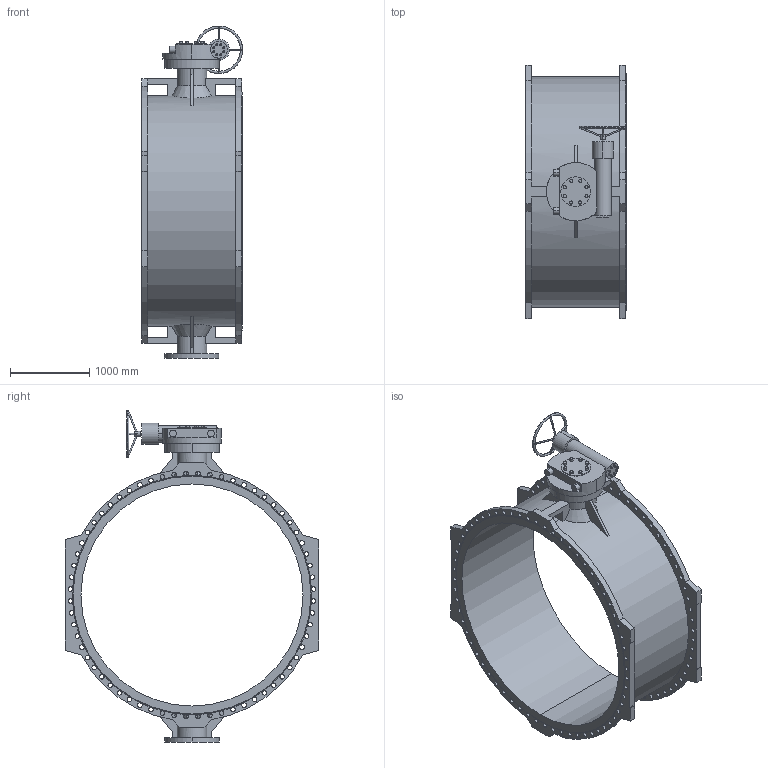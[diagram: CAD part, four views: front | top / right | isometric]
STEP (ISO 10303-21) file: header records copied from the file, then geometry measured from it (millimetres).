
FILE_DESCRIPTION (( 'STEP AP203' ), '1' );
FILE_NAME ('O_756_100_DN2800_0XX000XX_REV04.step', '2022-05-16T09:42:20', ( '' ), ( '' ), 'SwSTEP 2.0', 'SolidWorks 2019', '' );
FILE_SCHEMA (( 'CONFIG_CONTROL_DESIGN' ));
Length unit declared in the file: millimetre
Products named in the file (1): O_756_100_DN2800_0XX000XX_REV04
Bounding box: 1277.9 x 3200 x 4186 mm (x, y, z)
Volume: 1084427960.4 mm3; surface area: 35739645.6 mm2
Topology: 1 solids, 1 shells, 506 faces, 1825 edges, 1212 vertices
Faces by surface type: cylinder 336, plane 129, bspline 17, cone 16, torus 8
Entity records: 23712 total; most frequent: CARTESIAN_POINT 7190, ORIENTED_EDGE 3650, DIRECTION 3505, EDGE_CURVE 1825, AXIS2_PLACEMENT_3D 1435, VERTEX_POINT 1212, CIRCLE 945, EDGE_LOOP 671
